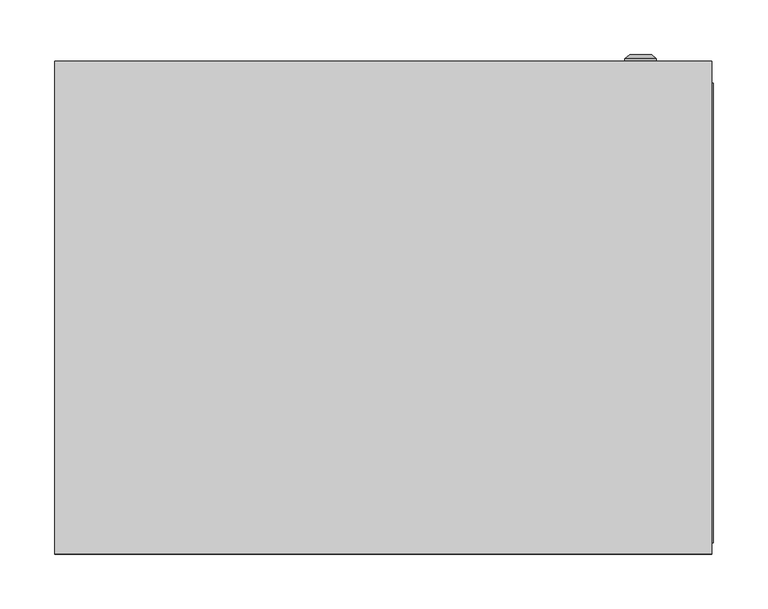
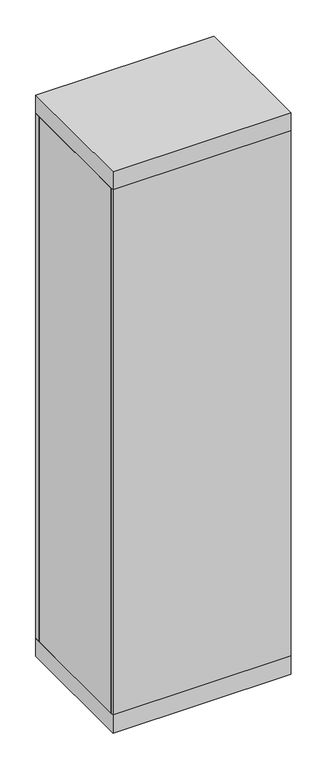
"""IFC4 building model written with IfcOpenShell, lengths in millimetres: proxy geometry, ВРУ-1_IP54 : ВРУ-1_2000х600х450."""

from ifc_helpers import new_model, si_unit, frame, origin, origin_with_axes, place, context, project, spatial, polyline, circle_curve, outline, extrude, source, transform, mapped, element, save
from ifc_brep_helpers import plane_surface, cylinder_surface, revolved_surface, advanced_brep


def electrical_equipment_1d521569(model_context):
    return source(origin(), model_context, "Body", "SolidModel", [
        extrude(outline(polyline([(300.0, 0.0), (-300.0, 0.0), (-300.0, 10.0), (300.0, 10.0), (300.0, 0.0)])), frame((0.0, 0.0, 65.0187804), z_axis=(0.0, 0.0, 1.0), x_axis=(1.0, 0.0, 0.0)), (0.0, 0.0, 1.0), 1869.9812196),
        extrude(outline(polyline([(-255.8707865, 125.9831461), (-215.8707865, 125.9831461), (-215.8707865, 93.1179775), (-218.8707865, 93.1179775), (-218.8707865, 122.9831461), (-252.8707865, 122.9831461), (-252.8707865, 93.1179775), (-255.8707865, 93.1179775), (-255.8707865, 125.9831461)])), frame((0.0, 0.0, 189.6067416), z_axis=(0.0, 0.0, 1.0), x_axis=(1.0, 0.0, 0.0)), (0.0, 0.0, 1.0), 1745.3932584),
        extrude(outline(polyline([(215.8707865, 125.9831461), (255.8707865, 125.9831461), (255.8707865, 93.1179775), (252.8707865, 93.1179775), (252.8707865, 122.9831461), (218.8707865, 122.9831461), (218.8707865, 93.1179775), (215.8707865, 93.1179775), (215.8707865, 125.9831461)])), frame((0.0, 0.0, 189.6067416), z_axis=(0.0, 0.0, 1.0), x_axis=(1.0, 0.0, 0.0)), (0.0, 0.0, 1.0), 1745.3932584),
        extrude(outline(polyline([(-255.8707865, 10.0), (-265.8707865, 10.0), (-265.8707865, 430.0), (-255.8707865, 430.0), (-255.8707865, 10.0)])), frame((0.0, 0.0, 1845.5966059), z_axis=(0.0, 0.0, 1.0), x_axis=(1.0, 0.0, 0.0)), (0.0, 0.0, 1.0), 53.0898876),
        extrude(outline(polyline([(265.8707865, 10.0), (255.8707865, 10.0), (255.8707865, 430.0), (265.8707865, 430.0), (265.8707865, 10.0)])), frame((0.0, 0.0, 1845.5966059), z_axis=(0.0, 0.0, 1.0), x_axis=(1.0, 0.0, 0.0)), (0.0, 0.0, 1.0), 53.0898876),
        extrude(outline(polyline([(-255.8707865, 10.0), (-265.8707865, 10.0), (-265.8707865, 430.0), (-255.8707865, 430.0), (-255.8707865, 10.0)])), frame((0.0, 0.0, 255.5966059), z_axis=(0.0, 0.0, 1.0), x_axis=(1.0, 0.0, 0.0)), (0.0, 0.0, 1.0), 53.0898876),
        extrude(outline(polyline([(265.8707865, 10.0), (255.8707865, 10.0), (255.8707865, 430.0), (265.8707865, 430.0), (265.8707865, 10.0)])), frame((0.0, 0.0, 255.5966059), z_axis=(0.0, 0.0, 1.0), x_axis=(1.0, 0.0, 0.0)), (0.0, 0.0, 1.0), 53.0898876),
        extrude(outline(polyline([(-255.8707865, 10.0), (-265.8707865, 10.0), (-265.8707865, 430.0), (-255.8707865, 430.0), (-255.8707865, 10.0)])), frame((0.0, 0.0, 935.5966059), z_axis=(0.0, 0.0, 1.0), x_axis=(1.0, 0.0, 0.0)), (0.0, 0.0, 1.0), 53.0898876),
        extrude(outline(polyline([(265.8707865, 10.0), (255.8707865, 10.0), (255.8707865, 430.0), (265.8707865, 430.0), (265.8707865, 10.0)])), frame((0.0, 0.0, 935.5966059), z_axis=(0.0, 0.0, 1.0), x_axis=(1.0, 0.0, 0.0)), (0.0, 0.0, 1.0), 53.0898876),
        extrude(outline(polyline([(1935.0, -300.0), (65.0187804, -300.0), (65.0187804, 301.2640449), (1935.0, 301.2640449), (1935.0, -300.0)]), holes=[polyline([(93.3701084, 265.8707865), (93.3701084, -263.3426966), (1892.9861595, -263.3426966), (1892.9861595, 265.8707865), (93.3701084, 265.8707865)])]), frame((0.0, 10.0, 0.0), z_axis=(0.0, 1.0, 0.0), x_axis=(0.0, 0.0, 1.0)), (0.0, 0.0, 1.0), 420.0),
        extrude(outline(polyline([(300.0067809, 450.0), (300.0067809, 0.0), (-300.0, 0.0), (-300.0, 450.0), (300.0067809, 450.0)])), frame((0.0, 0.0, 1935.0), z_axis=(0.0, 0.0, 1.0), x_axis=(1.0, 0.0, 0.0)), (0.0, 0.0, 1.0), 65.0),
        advanced_brep(
        [(220.669873, 450.0, 515.0), (249.330127, 450.0, 515.0), (235.0, 450.0, 515.0), (220.669873, 452.366592, 515.0), (249.330127, 452.366592, 515.0), (225.0, 456.0, 515.0), (245.0, 456.0, 515.0), (233.1080471, 456.0, 515.0), (236.8919529, 456.0, 515.0), (233.1080471, 454.9822294, 515.0), (236.8919529, 454.9822294, 515.0), (235.0, 454.9822294, 515.0)],
        [
            (0, 1, circle_curve(frame((235.0, 450.0, 515.0), z_axis=(0.0, -1.0, 0.0), x_axis=(1.0, 0.0, 0.0)), 14.330127)),
            (1, 2),
            (2, 0),
            (1, 0, circle_curve(frame((235.0, 450.0, 515.0), z_axis=(0.0, -1.0, 0.0), x_axis=(1.0, 0.0, 0.0)), 14.330127)),
            (3, 4, circle_curve(frame((235.0, 452.366592, 515.0), z_axis=(0.0, -1.0, 0.0), x_axis=(1.0, 0.0, 0.0)), 14.330127)),
            (4, 1),
            (0, 3),
            (4, 3, circle_curve(frame((235.0, 452.366592, 515.0), z_axis=(0.0, -1.0, 0.0), x_axis=(1.0, 0.0, 0.0)), 14.330127)),
            (5, 6, circle_curve(frame((235.0, 456.0, 515.0), z_axis=(0.0, -1.0, 0.0), x_axis=(1.0, 0.0, 0.0)), 10.0)),
            (6, 4),
            (3, 5),
            (6, 5, circle_curve(frame((235.0, 456.0, 515.0), z_axis=(0.0, -1.0, 0.0), x_axis=(1.0, 0.0, 0.0)), 10.0)),
            (7, 8, circle_curve(frame((235.0, 456.0, 515.0), z_axis=(0.0, -1.0, 0.0), x_axis=(1.0, 0.0, 0.0)), 1.8919529)),
            (8, 6),
            (5, 7),
            (8, 7, circle_curve(frame((235.0, 456.0, 515.0), z_axis=(0.0, -1.0, 0.0), x_axis=(1.0, 0.0, 0.0)), 1.8919529)),
            (9, 10, circle_curve(frame((235.0, 454.9822294, 515.0), z_axis=(0.0, -1.0, 0.0), x_axis=(1.0, 0.0, 0.0)), 1.8919529)),
            (10, 8),
            (7, 9),
            (10, 9, circle_curve(frame((235.0, 454.9822294, 515.0), z_axis=(0.0, -1.0, 0.0), x_axis=(1.0, 0.0, 0.0)), 1.8919529)),
            (11, 10),
            (9, 11),
        ],
        [
            plane_surface(frame((235.0, 450.0, 515.0), z_axis=(0.0, -1.0, 0.0), x_axis=(1.0, 0.0, 0.0))),
            cylinder_surface(frame((235.0, 463.1348851, 515.0), z_axis=(0.0, 1.0, 0.0), x_axis=(1.0, 0.0, 0.0)), 14.330127),
            revolved_surface(polyline([(249.330127, 452.366592, 515.0), (245.0, 456.0, 515.0)]), (235.0, 463.1348851, 515.0), (0.0, 1.0, 0.0)),
            plane_surface(frame((235.0, 456.0, 515.0), z_axis=(0.0, 1.0, 0.0), x_axis=(1.0, 0.0, 0.0))),
            revolved_surface(polyline([(236.8919529, 456.0, 515.0), (236.8919529, 454.9822294, 515.0)]), (235.0, 463.1348851, 515.0), (0.0, 1.0, 0.0)),
            plane_surface(frame((235.0, 454.9822294, 515.0), z_axis=(0.0, 1.0, 0.0), x_axis=(1.0, 0.0, 0.0))),
        ],
        [
            (0, [[1, 2, 3]]),
            (0, [[4, -3, -2]]),
            (1, [[5, 6, -1, 7]]),
            (1, [[8, -7, -4, -6]]),
            (2, [[9, 10, -5, 11]]),
            (2, [[12, -11, -8, -10]]),
            (3, [[13, 14, -9, 15]]),
            (3, [[16, -15, -12, -14]]),
            (4, [[17, 18, -13, 19]]),
            (4, [[20, -19, -16, -18]]),
            (5, [[21, -17, 22]]),
            (5, [[-22, -20, -21]]),
        ],
    ),
        advanced_brep(
        [(220.669873, 450.0, 1485.0), (249.330127, 450.0, 1485.0), (235.0, 450.0, 1485.0), (220.669873, 452.366592, 1485.0), (249.330127, 452.366592, 1485.0), (225.0, 456.0, 1485.0), (245.0, 456.0, 1485.0), (233.1080471, 456.0, 1485.0), (236.8919529, 456.0, 1485.0), (233.1080471, 454.9822294, 1485.0), (236.8919529, 454.9822294, 1485.0), (235.0, 454.9822294, 1485.0)],
        [
            (0, 1, circle_curve(frame((235.0, 450.0, 1485.0), z_axis=(0.0, -1.0, 0.0), x_axis=(1.0, 0.0, 0.0)), 14.330127)),
            (1, 2),
            (2, 0),
            (1, 0, circle_curve(frame((235.0, 450.0, 1485.0), z_axis=(0.0, -1.0, 0.0), x_axis=(1.0, 0.0, 0.0)), 14.330127)),
            (3, 4, circle_curve(frame((235.0, 452.366592, 1485.0), z_axis=(0.0, -1.0, 0.0), x_axis=(1.0, 0.0, 0.0)), 14.330127)),
            (4, 1),
            (0, 3),
            (4, 3, circle_curve(frame((235.0, 452.366592, 1485.0), z_axis=(0.0, -1.0, 0.0), x_axis=(1.0, 0.0, 0.0)), 14.330127)),
            (5, 6, circle_curve(frame((235.0, 456.0, 1485.0), z_axis=(0.0, -1.0, 0.0), x_axis=(1.0, 0.0, 0.0)), 10.0)),
            (6, 4),
            (3, 5),
            (6, 5, circle_curve(frame((235.0, 456.0, 1485.0), z_axis=(0.0, -1.0, 0.0), x_axis=(1.0, 0.0, 0.0)), 10.0)),
            (7, 8, circle_curve(frame((235.0, 456.0, 1485.0), z_axis=(0.0, -1.0, 0.0), x_axis=(1.0, 0.0, 0.0)), 1.8919529)),
            (8, 6),
            (5, 7),
            (8, 7, circle_curve(frame((235.0, 456.0, 1485.0), z_axis=(0.0, -1.0, 0.0), x_axis=(1.0, 0.0, 0.0)), 1.8919529)),
            (9, 10, circle_curve(frame((235.0, 454.9822294, 1485.0), z_axis=(0.0, -1.0, 0.0), x_axis=(1.0, 0.0, 0.0)), 1.8919529)),
            (10, 8),
            (7, 9),
            (10, 9, circle_curve(frame((235.0, 454.9822294, 1485.0), z_axis=(0.0, -1.0, 0.0), x_axis=(1.0, 0.0, 0.0)), 1.8919529)),
            (11, 10),
            (9, 11),
        ],
        [
            plane_surface(frame((235.0, 450.0, 1485.0), z_axis=(0.0, -1.0, 0.0), x_axis=(1.0, 0.0, 0.0))),
            cylinder_surface(frame((235.0, 463.1348851, 1485.0), z_axis=(0.0, 1.0, 0.0), x_axis=(1.0, 0.0, 0.0)), 14.330127),
            revolved_surface(polyline([(249.330127, 452.366592, 1485.0), (245.0, 456.0, 1485.0)]), (235.0, 463.1348851, 1485.0), (0.0, 1.0, 0.0)),
            plane_surface(frame((235.0, 456.0, 1485.0), z_axis=(0.0, 1.0, 0.0), x_axis=(1.0, 0.0, 0.0))),
            revolved_surface(polyline([(236.8919529, 456.0, 1485.0), (236.8919529, 454.9822294, 1485.0)]), (235.0, 463.1348851, 1485.0), (0.0, 1.0, 0.0)),
            plane_surface(frame((235.0, 454.9822294, 1485.0), z_axis=(0.0, 1.0, 0.0), x_axis=(1.0, 0.0, 0.0))),
        ],
        [
            (0, [[1, 2, 3]]),
            (0, [[4, -3, -2]]),
            (1, [[5, 6, -1, 7]]),
            (1, [[8, -7, -4, -6]]),
            (2, [[9, 10, -5, 11]]),
            (2, [[12, -11, -8, -10]]),
            (3, [[13, 14, -9, 15]]),
            (3, [[16, -15, -12, -14]]),
            (4, [[17, 18, -13, 19]]),
            (4, [[20, -19, -16, -18]]),
            (5, [[21, -17, 22]]),
            (5, [[-22, -20, -21]]),
        ],
    ),
        extrude(outline(polyline([(300.0067809, 450.0), (300.0067809, 0.0), (-300.0, 0.0), (-300.0, 450.0), (300.0067809, 450.0)])), origin_with_axes(), (0.0, 0.0, 1.0), 65.0187804),
        extrude(outline(polyline([(300.0, 430.0), (-300.0, 430.0), (-300.0, 450.0), (300.0, 450.0), (300.0, 430.0)])), frame((0.0, 0.0, 65.0187804), z_axis=(0.0, 0.0, 1.0), x_axis=(1.0, 0.0, 0.0)), (0.0, 0.0, 1.0), 1869.9812196),
    ])


if __name__ == "__main__":
    model = new_model("IFC4")
    model_context = context("Model", 3, world=origin())
    ifc_project = project(units=[si_unit("LENGTHUNIT", "METRE", prefix="MILLI")], contexts=[model_context])
    site = spatial("IfcSite", under=ifc_project)
    building = spatial("IfcBuilding", under=site)
    placement = place(None, origin())
    electrical_equipment_shape = electrical_equipment_1d521569(model_context)
    element("IfcBuildingElementProxy", 1, Name="ВРУ-1_IP54 : ВРУ-1_2000х600х450", ObjectType="ВРУ-1_IP54 : ВРУ-1_2000х600х450", at=placement, inside=building, context=model_context, shape_type="MappedRepresentation", body=[
        mapped(electrical_equipment_shape, transform((0.0, 0.0, 0.0), x_axis=(1.0, 0.0, 0.0), y_axis=(0.0, 1.0, 0.0), z_axis=(0.0, 0.0, 1.0))),
    ])
    save(model, "model.ifc")
